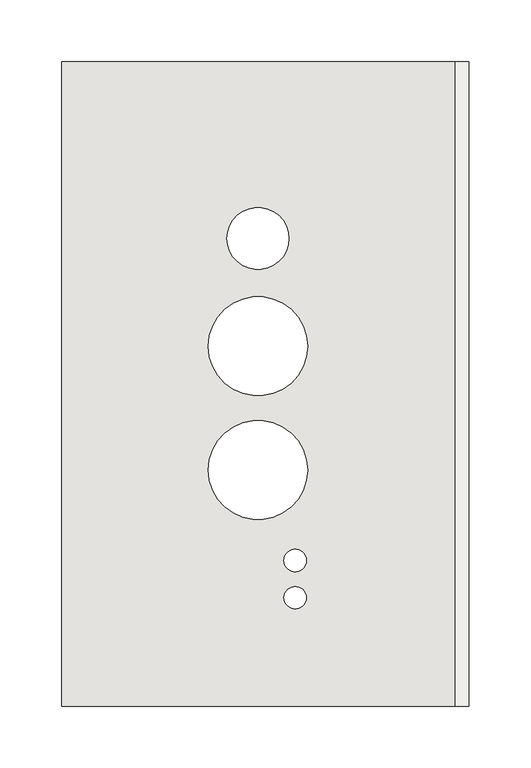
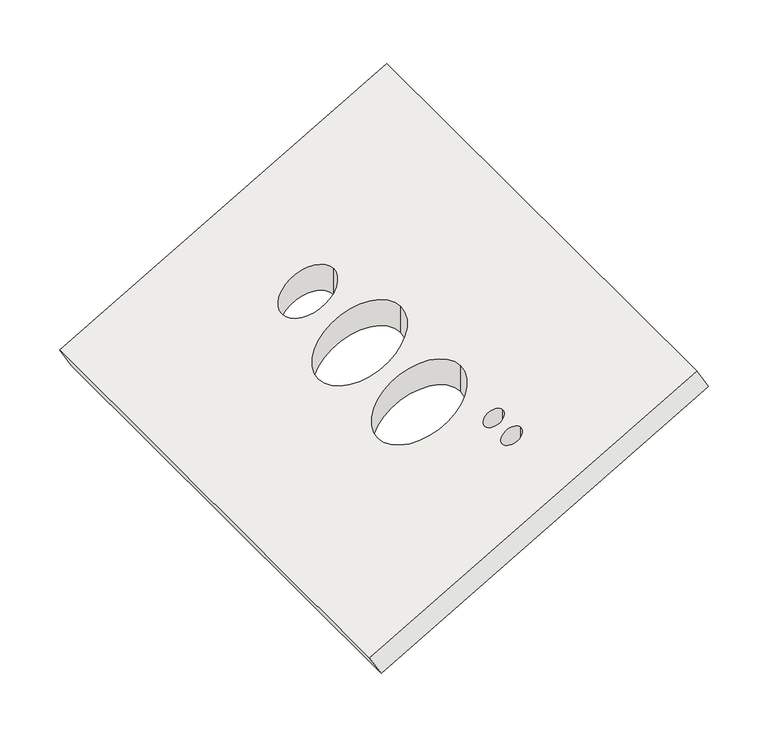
"""IFC4 building model written with IfcOpenShell, lengths in millimetres: covering geometry, DERS_353_AM_AEB_Delta Discovery Air_roofboard-GG_M&G : roofboard DDA-XL."""

from ifc_helpers import new_model, si_unit, frame, origin, place, context, project, spatial, polyline, ellipse_curve, source, transform, mapped, element, save
from ifc_brep_helpers import plane_surface, revolved_surface, advanced_brep


def covering_237e270b(model_context):
    return source(origin(), model_context, "Body", "AdvancedBrep", [
        advanced_brep(
        [(-146.9826489, -260.0, -111.4185843), (-146.9826489, 260.0, -111.4185843), (169.9826489, 260.0, 71.5814157), (169.9826489, -260.0, 71.5814157), (20.7772228, -172.5, -14.5623772), (38.7772228, -172.5, -4.1700723), (20.7772228, -142.5, -14.5623772), (38.7772228, -142.5, -4.1700723), (-40.2227772, 30.5, -49.7807436), (39.7772228, 30.5, -3.5927221), (-25.2227772, 117.5, -41.1204896), (24.7772228, 117.5, -12.2529761), (-40.2227772, -69.5, -49.7807436), (39.7772228, -69.5, -3.5927221), (-158.4826489, -260.0, -91.5), (158.4826489, -260.0, 91.5), (158.4826489, 260.0, 91.5), (-158.4826489, 260.0, -91.5), (38.7772228, -172.5, 22.38804), (20.7772228, -172.5, 11.9957352), (38.7772228, -142.5, 22.38804), (20.7772228, -142.5, 11.9957352), (39.7772228, 30.5, 22.9653903), (-40.2227772, 30.5, -23.2226312), (24.7772228, 117.5, 14.3051363), (-25.2227772, 117.5, -14.5623772), (39.7772228, -69.5, 22.9653903), (-40.2227772, -69.5, -23.2226312)],
        [
            (0, 1),
            (1, 2),
            (2, 3),
            (3, 0),
            (4, 5, ellipse_curve(frame((29.7772228, -172.5, -9.3662248), z_axis=(-0.4999999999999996, 0.0, 0.8660254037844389), x_axis=(0.866025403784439, 0.0, 0.49999999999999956)), 10.3923048, 9.0)),
            (5, 4, ellipse_curve(frame((29.7772228, -172.5, -9.3662248), z_axis=(-0.4999999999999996, 0.0, 0.8660254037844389), x_axis=(0.866025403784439, 0.0, 0.49999999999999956)), 10.3923048, 9.0)),
            (6, 7, ellipse_curve(frame((29.7772228, -142.5, -9.3662248), z_axis=(-0.4999999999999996, 0.0, 0.8660254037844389), x_axis=(0.866025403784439, 0.0, 0.49999999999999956)), 10.3923048, 9.0)),
            (7, 6, ellipse_curve(frame((29.7772228, -142.5, -9.3662248), z_axis=(-0.4999999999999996, 0.0, 0.8660254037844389), x_axis=(0.866025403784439, 0.0, 0.49999999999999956)), 10.3923048, 9.0)),
            (8, 9, ellipse_curve(frame((-0.2227772, 30.5, -26.6867328), z_axis=(-0.4999999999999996, 0.0, 0.8660254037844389), x_axis=(0.866025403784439, 0.0, 0.49999999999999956)), 46.1880215, 40.0)),
            (9, 8, ellipse_curve(frame((-0.2227772, 30.5, -26.6867328), z_axis=(-0.4999999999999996, 0.0, 0.8660254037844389), x_axis=(0.866025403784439, 0.0, 0.49999999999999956)), 46.1880215, 40.0)),
            (10, 11, ellipse_curve(frame((-0.2227772, 117.5, -26.6867328), z_axis=(-0.4999999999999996, 0.0, 0.8660254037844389), x_axis=(0.866025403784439, 0.0, 0.49999999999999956)), 28.8675135, 25.0)),
            (11, 10, ellipse_curve(frame((-0.2227772, 117.5, -26.6867328), z_axis=(-0.4999999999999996, 0.0, 0.8660254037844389), x_axis=(0.866025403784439, 0.0, 0.49999999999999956)), 28.8675135, 25.0)),
            (12, 13, ellipse_curve(frame((-0.2227772, -69.5, -26.6867328), z_axis=(-0.4999999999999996, 0.0, 0.8660254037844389), x_axis=(0.866025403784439, 0.0, 0.49999999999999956)), 46.1880215, 40.0)),
            (13, 12, ellipse_curve(frame((-0.2227772, -69.5, -26.6867328), z_axis=(-0.4999999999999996, 0.0, 0.8660254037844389), x_axis=(0.866025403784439, 0.0, 0.49999999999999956)), 46.1880215, 40.0)),
            (14, 15),
            (15, 16),
            (16, 17),
            (17, 14),
            (18, 19, ellipse_curve(frame((29.7772228, -172.5, 17.1918876), z_axis=(0.4999999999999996, 0.0, -0.8660254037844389), x_axis=(0.866025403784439, 0.0, 0.49999999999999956)), 10.3923048, 9.0)),
            (19, 18, ellipse_curve(frame((29.7772228, -172.5, 17.1918876), z_axis=(0.4999999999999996, 0.0, -0.8660254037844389), x_axis=(0.866025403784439, 0.0, 0.49999999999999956)), 10.3923048, 9.0)),
            (20, 21, ellipse_curve(frame((29.7772228, -142.5, 17.1918876), z_axis=(0.4999999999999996, 0.0, -0.8660254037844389), x_axis=(0.866025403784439, 0.0, 0.49999999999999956)), 10.3923048, 9.0)),
            (21, 20, ellipse_curve(frame((29.7772228, -142.5, 17.1918876), z_axis=(0.4999999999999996, 0.0, -0.8660254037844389), x_axis=(0.866025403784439, 0.0, 0.49999999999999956)), 10.3923048, 9.0)),
            (22, 23, ellipse_curve(frame((-0.2227772, 30.5, -0.1286205), z_axis=(0.4999999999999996, 0.0, -0.8660254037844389), x_axis=(0.866025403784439, 0.0, 0.49999999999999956)), 46.1880215, 40.0)),
            (23, 22, ellipse_curve(frame((-0.2227772, 30.5, -0.1286205), z_axis=(0.4999999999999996, 0.0, -0.8660254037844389), x_axis=(0.866025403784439, 0.0, 0.49999999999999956)), 46.1880215, 40.0)),
            (24, 25, ellipse_curve(frame((-0.2227772, 117.5, -0.1286205), z_axis=(0.4999999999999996, 0.0, -0.8660254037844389), x_axis=(0.866025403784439, 0.0, 0.49999999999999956)), 28.8675135, 25.0)),
            (25, 24, ellipse_curve(frame((-0.2227772, 117.5, -0.1286205), z_axis=(0.4999999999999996, 0.0, -0.8660254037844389), x_axis=(0.866025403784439, 0.0, 0.49999999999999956)), 28.8675135, 25.0)),
            (26, 27, ellipse_curve(frame((-0.2227772, -69.5, -0.1286205), z_axis=(0.4999999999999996, 0.0, -0.8660254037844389), x_axis=(0.866025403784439, 0.0, 0.49999999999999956)), 46.1880215, 40.0)),
            (27, 26, ellipse_curve(frame((-0.2227772, -69.5, -0.1286205), z_axis=(0.4999999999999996, 0.0, -0.8660254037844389), x_axis=(0.866025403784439, 0.0, 0.49999999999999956)), 46.1880215, 40.0)),
            (3, 15),
            (14, 0),
            (2, 16),
            (1, 17),
            (4, 19),
            (18, 5),
            (6, 21),
            (20, 7),
            (8, 23),
            (22, 9),
            (10, 25),
            (24, 11),
            (12, 27),
            (26, 13),
        ],
        [
            plane_surface(frame((-146.9826489, -260.0, -111.4185843), z_axis=(0.4999999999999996, 0.0, -0.8660254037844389), x_axis=(-0.8660254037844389, 0.0, -0.4999999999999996))),
            plane_surface(frame((-158.4826489, -260.0, -91.5), z_axis=(-0.4999999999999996, 0.0, 0.8660254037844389), x_axis=(0.8660254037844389, 0.0, 0.4999999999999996))),
            plane_surface(frame((-158.4826489, -260.0, -91.5), z_axis=(0.0, -1.0000000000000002, 0.0), x_axis=(0.4999999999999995, 0.0, -0.866025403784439))),
            plane_surface(frame((158.4826489, -260.0, 91.5), z_axis=(0.8660254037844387, 0.0, 0.5000000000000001), x_axis=(0.5000000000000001, 0.0, -0.8660254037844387))),
            plane_surface(frame((158.4826489, 260.0, 91.5), z_axis=(0.0, 1.0000000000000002, 0.0), x_axis=(0.5000000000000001, 0.0, -0.8660254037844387))),
            plane_surface(frame((-158.4826489, 260.0, -91.5), z_axis=(-0.866025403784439, 0.0, -0.4999999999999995), x_axis=(0.4999999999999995, 0.0, -0.866025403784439))),
            revolved_surface(polyline([(38.777222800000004, -172.5, 22.38803999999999), (38.777222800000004, -172.5, -14.562377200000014)]), (29.7772228, -172.5, -300.0), (0.0, 0.0, 1.0)),
            revolved_surface(polyline([(38.777222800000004, -142.5, 22.38804), (38.777222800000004, -142.5, -14.5623772)]), (29.7772228, -142.5, 0.0), (0.0, 0.0, 1.0)),
            revolved_surface(polyline([(39.7772228, 30.5, 22.965390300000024), (39.7772228, 30.5, -49.780743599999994)]), (-0.2227772, 30.5, -300.0), (0.0, 0.0, 1.0)),
            revolved_surface(polyline([(24.7772228, 117.5, 14.3051363), (24.7772228, 117.5, -41.1204896)]), (-0.2227772, 117.5, 0.0), (0.0, 0.0, 1.0)),
            revolved_surface(polyline([(39.7772228, -69.5, 22.965390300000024), (39.7772228, -69.5, -49.780743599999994)]), (-0.2227772, -69.5, -300.0), (0.0, 0.0, 1.0)),
        ],
        [
            (0, [[1, 2, 3, 4], [5, 6], [7, 8], [9, 10], [11, 12], [13, 14]]),
            (1, [[15, 16, 17, 18], [19, 20], [21, 22], [23, 24], [25, 26], [27, 28]]),
            (2, [[-4, 29, -15, 30]]),
            (3, [[-3, 31, -16, -29]]),
            (4, [[-2, 32, -17, -31]]),
            (5, [[-1, -30, -18, -32]]),
            (6, [[33, -19, 34, -5]]),
            (6, [[-33, -6, -34, -20]]),
            (7, [[35, -21, 36, -7]]),
            (7, [[-35, -8, -36, -22]]),
            (8, [[37, -23, 38, -9]]),
            (8, [[-37, -10, -38, -24]]),
            (9, [[39, -25, 40, -11]]),
            (9, [[-39, -12, -40, -26]]),
            (10, [[41, -27, 42, -13]]),
            (10, [[-41, -14, -42, -28]]),
        ],
    ),
    ])


if __name__ == "__main__":
    model = new_model("IFC4")
    model_context = context("Model", 3, world=origin())
    ifc_project = project(units=[si_unit("LENGTHUNIT", "METRE", prefix="MILLI")], contexts=[model_context])
    site = spatial("IfcSite", under=ifc_project)
    building = spatial("IfcBuilding", under=site)
    placement = place(None, origin())
    covering_shape = covering_237e270b(model_context)
    element("IfcCovering", 1, ObjectType="DERS_353_AM_AEB_Delta Discovery Air_roofboard-GG_M&G : roofboard DDA-XL", at=placement, inside=building, context=model_context, shape_type="MappedRepresentation", body=[
        mapped(covering_shape, transform((0.0, 0.0, 0.0), x_axis=(1.0, 0.0, 0.0), y_axis=(0.0, 1.0, 0.0), z_axis=(0.0, 0.0, 1.0))),
    ])
    save(model, "model.ifc")
